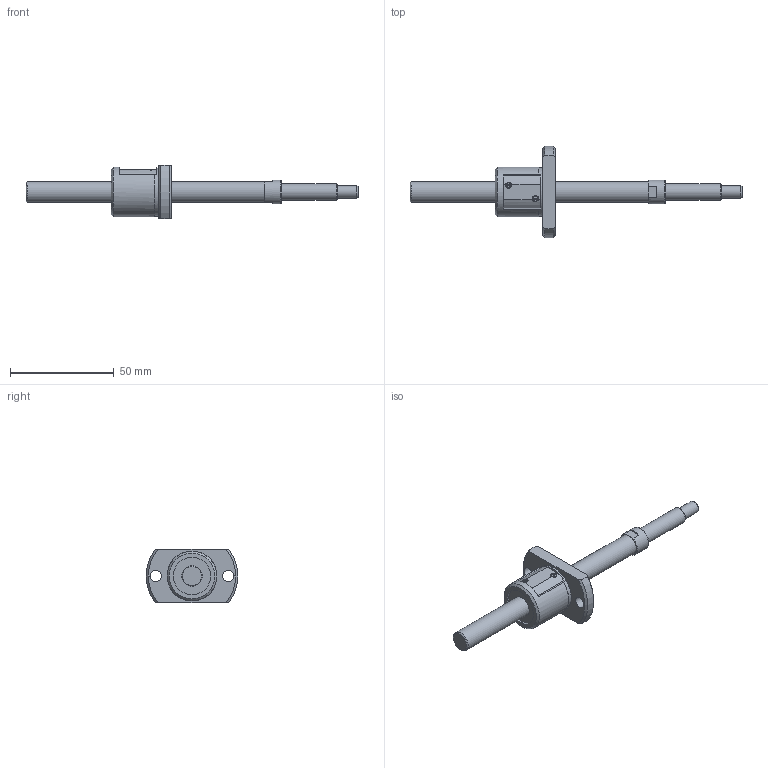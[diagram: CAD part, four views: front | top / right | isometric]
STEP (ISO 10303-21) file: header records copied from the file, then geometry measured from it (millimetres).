
FILE_DESCRIPTION( ( 'STEP AP214' ), '1' );
FILE_NAME( 'p:/temp/worker_8/2188_2204/app_85_12015063014141018019050260eae72_00_00_00_000/STEP/SG1004-110R160C3A1X_41__2_14.stp', ' ', ( ' ' ), ( ' ' ), 'PSStep 15.0.47', 'PARTsolutions', ' ' );
FILE_SCHEMA( ( 'AUTOMOTIVE_DESIGN { 1 0 10303 214 1 1 1 1 }' ) );
Length unit declared in the file: millimetre
Products named in the file (3): SG1004-110R160C3A1X(41); _SG1004-110R160C3A_shaft; _SG1004_nut
Assembly tree (2 placements, depth 2):
  SG1004-110R160C3A1X(41)
    _SG1004-110R160C3A_shaft
    _SG1004_nut
Bounding box: 160 x 44 x 26 mm (x, y, z)
Volume: 25024 mm3; surface area: 10448.4 mm2
Topology: 2 solids, 2 shells, 72 faces, 177 edges, 116 vertices
Faces by surface type: plane 35, cylinder 23, cone 13, torus 1
Full cylindrical faces by diameter (mm): 5.5 x2, 6 x1, 8 x1, 10 x2, 11.5 x1, 18 x2, 23.5 x1, 24 x1
Entity records: 2634 total; most frequent: CARTESIAN_POINT 409, DIRECTION 346, ORIENTED_EDGE 292, EDGE_CURVE 146, AXIS2_PLACEMENT_3D 143, EDGE_LOOP 106, VERTEX_POINT 106, FACE_OUTER_BOUND 84
